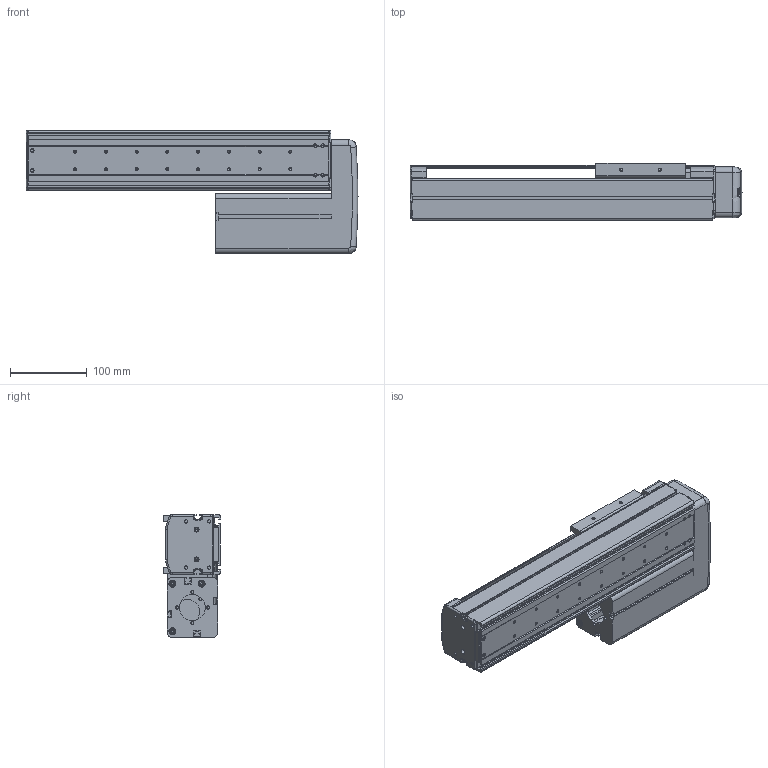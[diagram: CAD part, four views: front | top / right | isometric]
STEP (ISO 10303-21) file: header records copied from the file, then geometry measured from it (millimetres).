
FILE_DESCRIPTION((''),'2;1');
FILE_NAME('BE10E-UL-M_N-20_IGS_PRT','2017-06-17T',(' '),(''),'PRO/ENGINEER BY PARAMETRIC TECHNOLOGY CORPORATION, 2015030','PRO/ENGINEER BY PARAMETRIC TECHNOLOGY CORPORATION, 2015030','');
FILE_SCHEMA(('CONFIG_CONTROL_DESIGN'));
Length unit declared in the file: millimetre
Products named in the file (1): BE10E-UL-M_N-20_IGS_PRT
Bounding box: 432 x 75 x 160 mm (x, y, z)
Volume: 877453.1 mm3; surface area: 573525 mm2
Topology: 2 solids, 90 shells, 1693 faces, 4554 edges, 2939 vertices
Faces by surface type: cylinder 773, plane 692, cone 81, torus 71, sphere 44, bspline 32
Entity records: 55123 total; most frequent: CARTESIAN_POINT 11637, DIRECTION 9434, ORIENTED_EDGE 8704, EDGE_CURVE 4520, AXIS2_PLACEMENT_3D 3488, VERTEX_POINT 2939, VECTOR 2458, LINE 2458
